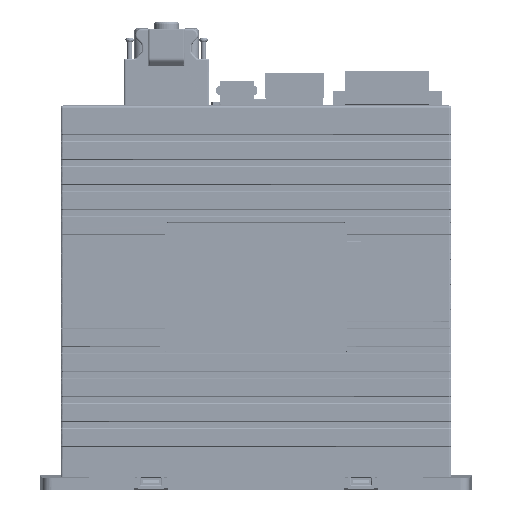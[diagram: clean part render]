
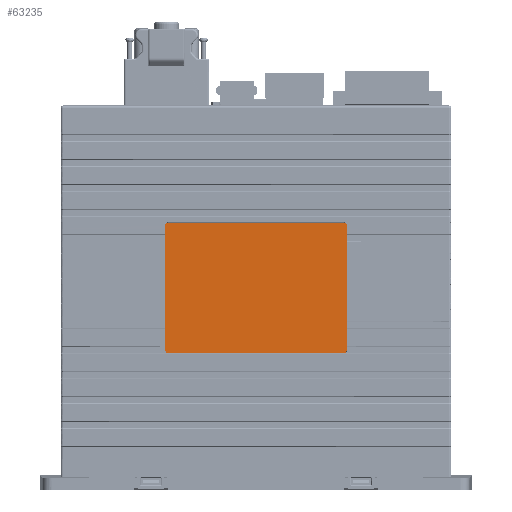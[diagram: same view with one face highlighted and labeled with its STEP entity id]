
A CAD part, front view. The second image highlights one B-rep face of the part: STEP entity #63235.
In plain terms, the highlighted planar face has unit normal (0, -1, 0).
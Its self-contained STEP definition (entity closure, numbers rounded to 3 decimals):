
#19787=DIRECTION('',(1.,0.,0.));
#19788=VECTOR('',#19787,89.365);
#19789=CARTESIAN_POINT('',(-44.682,-8.7,
36.42));
#19790=LINE('',#19789,#19788);
#19791=DIRECTION('',(1.,0.,0.));
#19792=VECTOR('',#19791,89.367);
#19793=CARTESIAN_POINT('',(-44.684,-8.7,
-30.141));
#19794=LINE('',#19793,#19792);
#22568=CARTESIAN_POINT('',(44.682,-8.7,
-30.141));
#22569=CARTESIAN_POINT('',(44.884,-8.7,
-30.14));
#22570=CARTESIAN_POINT('',(45.254,-8.7,
-30.064));
#22571=CARTESIAN_POINT('',(45.752,-8.7,
-29.737));
#22572=CARTESIAN_POINT('',(46.076,-8.7,
-29.238));
#22573=CARTESIAN_POINT('',(46.15,-8.7,
-28.866));
#22574=CARTESIAN_POINT('',(46.15,-8.7,
-28.664));
#22580=DIRECTION('',(0.,0.,1.));
#22581=VECTOR('',#22580,63.607);
#22582=CARTESIAN_POINT('',(46.15,-8.7,
-28.664));
#22583=LINE('',#22582,#22581);
#22631=CARTESIAN_POINT('',(46.15,-8.7,
34.943));
#22632=CARTESIAN_POINT('',(46.15,-8.7,
35.144));
#22633=CARTESIAN_POINT('',(46.076,-8.7,
35.516));
#22634=CARTESIAN_POINT('',(45.753,-8.7,
36.014));
#22635=CARTESIAN_POINT('',(45.255,-8.7,
36.343));
#22636=CARTESIAN_POINT('',(44.884,-8.7,
36.419));
#22637=CARTESIAN_POINT('',(44.682,-8.7,
36.42));
#27572=CARTESIAN_POINT('',(-44.682,-8.7,
36.42));
#27573=CARTESIAN_POINT('',(-44.884,-8.7,
36.419));
#27574=CARTESIAN_POINT('',(-45.254,-8.7,
36.343));
#27575=CARTESIAN_POINT('',(-45.752,-8.7,
36.015));
#27576=CARTESIAN_POINT('',(-46.076,-8.7,
35.517));
#27577=CARTESIAN_POINT('',(-46.15,-8.7,
35.145));
#27578=CARTESIAN_POINT('',(-46.15,-8.7,
34.943));
#27584=DIRECTION('',(0.,0.,-1.));
#27585=VECTOR('',#27584,63.607);
#27586=CARTESIAN_POINT('',(-46.15,-8.7,
34.943));
#27587=LINE('',#27586,#27585);
#28794=CARTESIAN_POINT('',(-46.15,-8.7,
-28.664));
#28795=CARTESIAN_POINT('',(-46.15,-8.7,
-28.866));
#28796=CARTESIAN_POINT('',(-46.076,-8.7,
-29.237));
#28797=CARTESIAN_POINT('',(-45.754,-8.7,
-29.735));
#28798=CARTESIAN_POINT('',(-45.255,-8.7,
-30.064));
#28799=CARTESIAN_POINT('',(-44.886,-8.7,
-30.14));
#28800=CARTESIAN_POINT('',(-44.684,-8.7,
-30.141));
#53912=CARTESIAN_POINT('',(-44.682,-8.7,
36.42));
#53913=CARTESIAN_POINT('',(44.682,-8.7,
36.42));
#53914=VERTEX_POINT('',#53912);
#53915=VERTEX_POINT('',#53913);
#53916=CARTESIAN_POINT('',(-44.684,-8.7,
-30.141));
#53917=CARTESIAN_POINT('',(44.682,-8.7,
-30.141));
#53918=VERTEX_POINT('',#53916);
#53919=VERTEX_POINT('',#53917);
#58975=VERTEX_POINT('',#27578);
#58976=CARTESIAN_POINT('',(-46.15,-8.7,
-28.664));
#58977=VERTEX_POINT('',#58976);
#59882=VERTEX_POINT('',#22574);
#59899=CARTESIAN_POINT('',(46.15,-8.7,
34.943));
#59900=VERTEX_POINT('',#59899);
#63213=CARTESIAN_POINT('',(0.,-8.7,3.139));
#63214=DIRECTION('',(0.,1.,0.));
#63215=DIRECTION('',(0.,0.,1.));
#63216=AXIS2_PLACEMENT_3D('',#63213,#63214,#63215);
#63217=PLANE('',#63216);
#63219=ORIENTED_EDGE('',*,*,#63218,.F.);
#63221=ORIENTED_EDGE('',*,*,#63220,.F.);
#63223=ORIENTED_EDGE('',*,*,#63222,.F.);
#63225=ORIENTED_EDGE('',*,*,#63224,.F.);
#63226=ORIENTED_EDGE('',*,*,#63183,.T.);
#63228=ORIENTED_EDGE('',*,*,#63227,.F.);
#63230=ORIENTED_EDGE('',*,*,#63229,.F.);
#63232=ORIENTED_EDGE('',*,*,#63231,.F.);
#63233=EDGE_LOOP('',(#63219,#63221,#63223,#63225,#63226,#63228,#63230,#63232));
#63234=FACE_OUTER_BOUND('',#63233,.F.);
#22575=B_SPLINE_CURVE_WITH_KNOTS('',3,(#22568,#22569,#22570,#22571,#22572,
#22573,#22574),.UNSPECIFIED.,.F.,.F.,(4,1,1,1,4),(0.,0.25,0.5,0.75,
1.),.UNSPECIFIED.);
#22638=B_SPLINE_CURVE_WITH_KNOTS('',3,(#22631,#22632,#22633,#22634,#22635,
#22636,#22637),.UNSPECIFIED.,.F.,.F.,(4,1,1,1,4),(0.,0.25,0.5,0.75,
1.),.UNSPECIFIED.);
#27579=B_SPLINE_CURVE_WITH_KNOTS('',3,(#27572,#27573,#27574,#27575,#27576,
#27577,#27578),.UNSPECIFIED.,.F.,.F.,(4,1,1,1,4),(0.,0.25,0.5,0.75,
1.),.UNSPECIFIED.);
#28801=B_SPLINE_CURVE_WITH_KNOTS('',3,(#28794,#28795,#28796,#28797,#28798,
#28799,#28800),.UNSPECIFIED.,.F.,.F.,(4,1,1,1,4),(0.,0.25,0.5,0.75,
1.),.UNSPECIFIED.);
#63183=EDGE_CURVE('',#53914,#53915,#19790,.T.);
#63218=EDGE_CURVE('',#53918,#53919,#19794,.T.);
#63220=EDGE_CURVE('',#58977,#53918,#28801,.T.);
#63222=EDGE_CURVE('',#58975,#58977,#27587,.T.);
#63224=EDGE_CURVE('',#53914,#58975,#27579,.T.);
#63227=EDGE_CURVE('',#59900,#53915,#22638,.T.);
#63229=EDGE_CURVE('',#59882,#59900,#22583,.T.);
#63231=EDGE_CURVE('',#53919,#59882,#22575,.T.);
#63235=ADVANCED_FACE('',(#63234),#63217,.F.);
